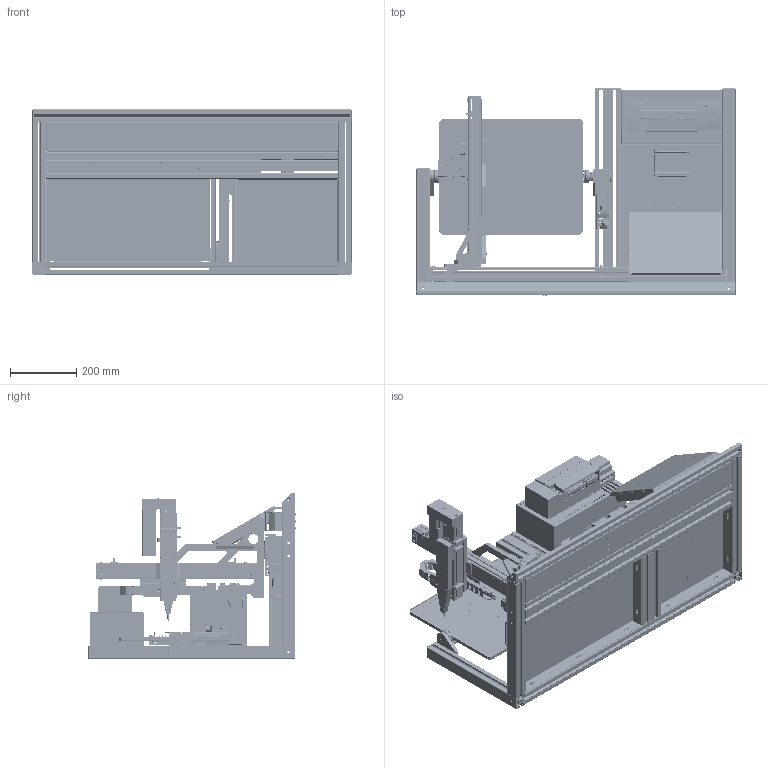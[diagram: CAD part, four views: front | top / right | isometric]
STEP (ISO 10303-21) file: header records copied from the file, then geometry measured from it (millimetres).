
FILE_DESCRIPTION (( 'STEP AP214' ), '1' );
FILE_NAME ('可变三维写字板总图.STEP', '2023-08-15T09:04:14', ( 'MicroSoft' ), ( 'MicroSoft' ), 'SwSTEP 2.0', 'SolidWorks 2020', '' );
FILE_SCHEMA (( 'AUTOMOTIVE_DESIGN' ));
Length unit declared in the file: millimetre
Products named in the file (1): 可变三维写字板总图
Bounding box: 962 x 625.5 x 500 mm (x, y, z)
Surface area: 5520817.9 mm2 (no closed solid volume)
Topology: 0 solids, 928 shells, 6005 faces, 34289 edges, 28553 vertices
Faces by surface type: plane 3943, cylinder 1726, bspline 166, cone 81, torus 58, sphere 31
Entity records: 418005 total; most frequent: CARTESIAN_POINT 96159, DIRECTION 50522, ORIENTED_EDGE 43484, EDGE_CURVE 34272, VERTEX_POINT 28553, LINE 22526, VECTOR 22526, AXIS2_PLACEMENT_3D 13998
